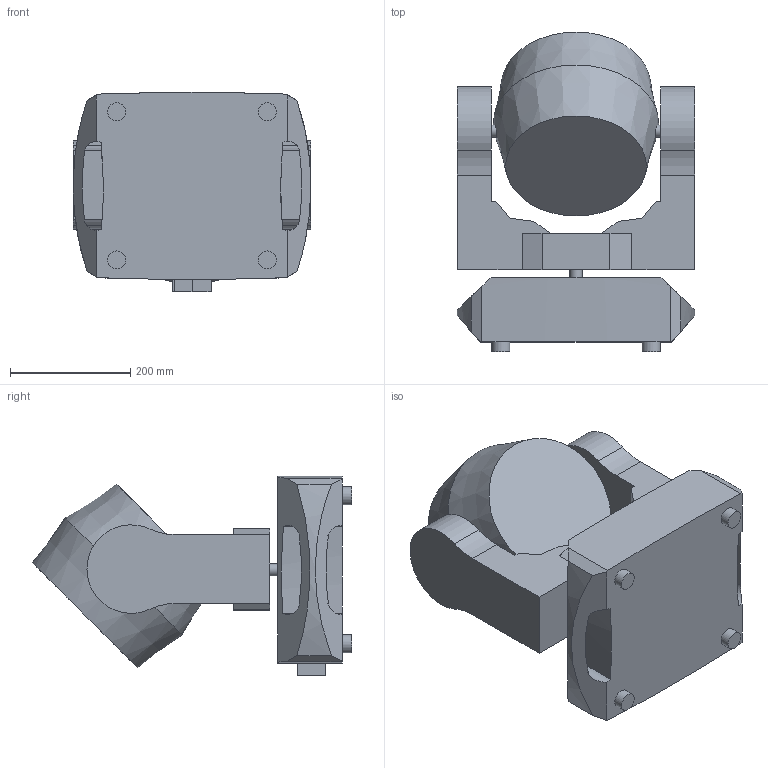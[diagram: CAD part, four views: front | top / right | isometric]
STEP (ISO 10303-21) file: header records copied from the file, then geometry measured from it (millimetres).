
FILE_DESCRIPTION(/* description */ (''),/* implementation_level */ '2;1');
FILE_NAME(/* name */ 'D:/dgooch/Documents/CADENG/PRO/MK Storm Wash/CAD_Simp/45/Maverick_Storm_1_Wash_45.step',/* time_stamp */ '2019-03-18T09:41:11-04:00',/* author */ (''),/* organization */ (''),/* preprocessor_version */ 'ST-DEVELOPER v17.2',/* originating_system */ 'Autodesk Translation Framework v7.6.0.251',/* authorisation */ '');
FILE_SCHEMA (('AUTOMOTIVE_DESIGN { 1 0 10303 214 3 1 1 }'));
Length unit declared in the file: millimetre
Products named in the file (4): Maverick_Storm_1_Wash; Head (1); Arms; Base
Assembly tree (3 placements, depth 2):
  Maverick_Storm_1_Wash
    Head (1)
    Arms
    Base
Bounding box: 394.97 x 530.82 x 330.91 mm (x, y, z)
Volume: 27152618.2 mm3; surface area: 1001242.2 mm2
Topology: 4 solids, 4 shells, 80 faces, 208 edges, 140 vertices
Faces by surface type: plane 48, cylinder 29, cone 2, bspline 1
Full cylindrical faces by diameter (mm): 20 x4, 30 x4, 219.973 x1
Entity records: 2686 total; most frequent: CARTESIAN_POINT 530, DIRECTION 444, ORIENTED_EDGE 416, EDGE_CURVE 208, AXIS2_PLACEMENT_3D 158, VERTEX_POINT 140, LINE 128, VECTOR 128
